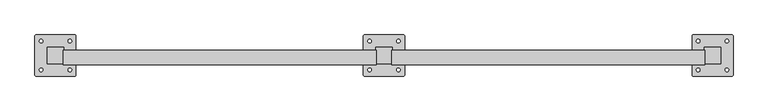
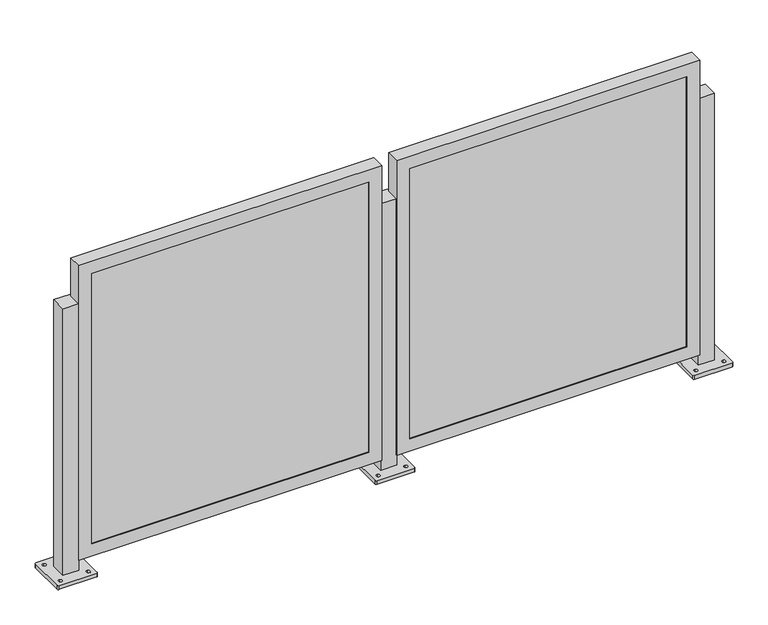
"""IFC4 building model written with IfcOpenShell, lengths in millimetres: railing geometry, Railing - Amico Architectural - Perforated Railing - Apex02."""

from ifc_helpers import new_model, si_unit, frame, origin, place, context, project, spatial, polyline, circle_curve, outline, extrude, faceted_brep, source, transform, mapped, element, save
from ifc_brep_helpers import plane_surface, cylinder_surface, revolved_surface, advanced_brep


def railing_8ff6461c(model_context):
    return source(origin(), model_context, "Body", "SolidModel", [
        advanced_brep(
        [(-26985.3286619, -908.4679764, 914.4), (-26985.3286619, -959.2679764, 914.4), (-26934.5286619, -959.2679764, 914.4), (-26934.5286619, -908.4679764, 914.4), (-27023.428662, -994.1929354, 0.0), (-27023.428662, -873.5430174, 0.0), (-27020.2536339, -870.3679893, 0.0), (-26899.6036899, -870.3679893, 0.0), (-26896.4286617, -873.5430174, 0.0), (-26896.4286617, -994.1929354, 0.0), (-26899.6036899, -997.3679635, 0.0), (-27020.2536339, -997.3679635, 0.0), (-27004.3786494, -983.874231, 0.0), (-27004.3786494, -972.7617186, 0.0), (-27004.3786603, -894.9742267, 0.0), (-27004.3786603, -883.8617451, 0.0), (-26915.4786485, -983.8742295, 0.0), (-26915.4786485, -972.7617189, 0.0), (-26915.4786594, -894.9742251, 0.0), (-26915.4786594, -883.8617453, 0.0), (-26985.3286619, -908.4679764, 12.7), (-26985.3286619, -959.2679764, 12.7), (-26934.5286619, -959.2679764, 12.7), (-26934.5286619, -908.4679764, 12.7), (-27023.428662, -994.1929354, 12.7), (-27020.2536339, -997.3679635, 12.7), (-26899.6036899, -997.3679635, 12.7), (-26896.4286617, -994.1929354, 12.7), (-26896.4286617, -873.5430174, 12.7), (-26899.6036899, -870.3679893, 12.7), (-27020.2536339, -870.3679893, 12.7), (-27023.428662, -873.5430174, 12.7), (-27004.3786494, -983.874231, 12.7), (-27004.3786494, -972.7617186, 12.7), (-27004.3786603, -894.9742267, 12.7), (-27004.3786603, -883.8617451, 12.7), (-26915.4786485, -983.8742295, 12.7), (-26915.4786485, -972.7617189, 12.7), (-26915.4786594, -894.9742251, 12.7), (-26915.4786594, -883.8617453, 12.7)],
        [
            (0, 1),
            (1, 2),
            (2, 3),
            (3, 0),
            (4, 5),
            (5, 6, circle_curve(frame((-27020.2536339, -873.5430174, 0.0), z_axis=(0.0, 0.0, -1.0), x_axis=(0.0, 1.0, 0.0)), 3.1750282)),
            (6, 7),
            (7, 8, circle_curve(frame((-26899.6036899, -873.5430174, 0.0), z_axis=(0.0, 0.0, -1.0), x_axis=(0.0, 1.0, 0.0)), 3.1750282)),
            (8, 9),
            (9, 10, circle_curve(frame((-26899.6036899, -994.1929354, 0.0), z_axis=(0.0, 0.0, -1.0), x_axis=(0.0, 1.0, 0.0)), 3.1750282)),
            (10, 11),
            (11, 4, circle_curve(frame((-27020.2536339, -994.1929354, 0.0), z_axis=(0.0, 0.0, -1.0), x_axis=(0.0, 1.0, 0.0)), 3.1750282)),
            (12, 13, circle_curve(frame((-27004.3786494, -978.3179748, 0.0), z_axis=(0.0, 0.0, 1.0), x_axis=(0.0, 1.0, 0.0)), 5.5562562)),
            (13, 12, circle_curve(frame((-27004.3786494, -978.3179748, 0.0), z_axis=(0.0, 0.0, 1.0), x_axis=(0.0, 1.0, 0.0)), 5.5562562)),
            (14, 15, circle_curve(frame((-27004.3786603, -889.4179859, 0.0), z_axis=(0.0, 0.0, 1.0), x_axis=(0.0, 1.0, 0.0)), 5.5562408)),
            (15, 14, circle_curve(frame((-27004.3786603, -889.4179859, 0.0), z_axis=(0.0, 0.0, 1.0), x_axis=(0.0, 1.0, 0.0)), 5.5562408)),
            (16, 17, circle_curve(frame((-26915.4786485, -978.3179742, 0.0), z_axis=(0.0, 0.0, 1.0), x_axis=(0.0, 1.0, 0.0)), 5.5562553)),
            (17, 16, circle_curve(frame((-26915.4786485, -978.3179742, 0.0), z_axis=(0.0, 0.0, 1.0), x_axis=(0.0, 1.0, 0.0)), 5.5562553)),
            (18, 19, circle_curve(frame((-26915.4786594, -889.4179852, 0.0), z_axis=(0.0, 0.0, 1.0), x_axis=(0.0, 1.0, 0.0)), 5.5562399)),
            (19, 18, circle_curve(frame((-26915.4786594, -889.4179852, 0.0), z_axis=(0.0, 0.0, 1.0), x_axis=(0.0, 1.0, 0.0)), 5.5562399)),
            (0, 20),
            (20, 21),
            (21, 1),
            (21, 22),
            (22, 2),
            (22, 23),
            (23, 3),
            (23, 20),
            (24, 25, circle_curve(frame((-27020.2536339, -994.1929354, 12.7), z_axis=(0.0, 0.0, 1.0), x_axis=(0.0, 1.0, 0.0)), 3.1750282)),
            (25, 26),
            (26, 27, circle_curve(frame((-26899.6036899, -994.1929354, 12.7), z_axis=(0.0, 0.0, 1.0), x_axis=(0.0, 1.0, 0.0)), 3.1750282)),
            (27, 28),
            (28, 29, circle_curve(frame((-26899.6036899, -873.5430174, 12.7), z_axis=(0.0, 0.0, 1.0), x_axis=(0.0, 1.0, 0.0)), 3.1750282)),
            (29, 30),
            (30, 31, circle_curve(frame((-27020.2536339, -873.5430174, 12.7), z_axis=(0.0, 0.0, 1.0), x_axis=(0.0, 1.0, 0.0)), 3.1750282)),
            (31, 24),
            (32, 33, circle_curve(frame((-27004.3786494, -978.3179748, 12.7), z_axis=(0.0, 0.0, -1.0), x_axis=(0.0, 1.0, 0.0)), 5.5562562)),
            (33, 32, circle_curve(frame((-27004.3786494, -978.3179748, 12.7), z_axis=(0.0, 0.0, -1.0), x_axis=(0.0, 1.0, 0.0)), 5.5562562)),
            (34, 35, circle_curve(frame((-27004.3786603, -889.4179859, 12.7), z_axis=(0.0, 0.0, -1.0), x_axis=(0.0, 1.0, 0.0)), 5.5562408)),
            (35, 34, circle_curve(frame((-27004.3786603, -889.4179859, 12.7), z_axis=(0.0, 0.0, -1.0), x_axis=(0.0, 1.0, 0.0)), 5.5562408)),
            (36, 37, circle_curve(frame((-26915.4786485, -978.3179742, 12.7), z_axis=(0.0, 0.0, -1.0), x_axis=(0.0, 1.0, 0.0)), 5.5562553)),
            (37, 36, circle_curve(frame((-26915.4786485, -978.3179742, 12.7), z_axis=(0.0, 0.0, -1.0), x_axis=(0.0, 1.0, 0.0)), 5.5562553)),
            (38, 39, circle_curve(frame((-26915.4786594, -889.4179852, 12.7), z_axis=(0.0, 0.0, -1.0), x_axis=(0.0, 1.0, 0.0)), 5.5562399)),
            (39, 38, circle_curve(frame((-26915.4786594, -889.4179852, 12.7), z_axis=(0.0, 0.0, -1.0), x_axis=(0.0, 1.0, 0.0)), 5.5562399)),
            (24, 4),
            (11, 25),
            (10, 26),
            (9, 27),
            (8, 28),
            (7, 29),
            (6, 30),
            (5, 31),
            (32, 12),
            (13, 33),
            (34, 14),
            (15, 35),
            (36, 16),
            (17, 37),
            (38, 18),
            (19, 39),
        ],
        [
            plane_surface(frame((-26985.3286619, -959.2679764, 914.4), z_axis=(0.0, 0.0, 1.0), x_axis=(0.0, -1.0, 0.0))),
            plane_surface(frame((-26985.3286619, -959.2679764, 0.0), z_axis=(0.0, 0.0, -1.0), x_axis=(0.0, 1.0, 0.0))),
            plane_surface(frame((-26985.3286619, -908.4679764, 914.4), z_axis=(-1.0, 0.0, 0.0), x_axis=(0.0, 0.0, -1.0))),
            plane_surface(frame((-26985.3286619, -959.2679764, 914.4), z_axis=(0.0, -1.0, 0.0), x_axis=(0.0, 0.0, -1.0))),
            plane_surface(frame((-26934.5286619, -959.2679764, 914.4), z_axis=(1.0, 0.0, 0.0), x_axis=(0.0, 0.0, -1.0))),
            plane_surface(frame((-26934.5286619, -908.4679764, 914.4), z_axis=(0.0, 1.0, 0.0), x_axis=(0.0, 0.0, -1.0))),
            plane_surface(frame((-27020.2536339, -991.0179072, 12.7), z_axis=(0.0, 0.0, 1.0), x_axis=(-1.0, 0.0, 0.0))),
            cylinder_surface(frame((-27020.2536339, -994.1929354, 0.0), z_axis=(0.0, 0.0, 1.0), x_axis=(0.0, 1.0, 0.0)), 3.1750282),
            plane_surface(frame((-27020.2536339, -997.3679635, 12.7), z_axis=(1.1945386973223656e-12, -1.0, 0.0), x_axis=(0.0, 0.0, -1.0))),
            cylinder_surface(frame((-26899.6036899, -994.1929354, 0.0), z_axis=(0.0, 0.0, 1.0), x_axis=(0.0, 1.0, 0.0)), 3.1750282),
            plane_surface(frame((-26896.4286617, -994.1929354, 12.7), z_axis=(1.0, 0.0, 0.0), x_axis=(0.0, 0.0, -1.0))),
            cylinder_surface(frame((-26899.6036899, -873.5430174, 0.0), z_axis=(0.0, 0.0, 1.0), x_axis=(0.0, 1.0, 0.0)), 3.1750282),
            plane_surface(frame((-26899.6036899, -870.3679893, 12.7), z_axis=(-1.1946088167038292e-12, 1.0, 0.0), x_axis=(0.0, 0.0, -1.0))),
            cylinder_surface(frame((-27020.2536339, -873.5430174, 0.0), z_axis=(0.0, 0.0, 1.0), x_axis=(0.0, 1.0, 0.0)), 3.1750282),
            plane_surface(frame((-27023.428662, -873.5430174, 12.7), z_axis=(-1.0, 0.0, 0.0), x_axis=(0.0, 0.0, -1.0))),
            revolved_surface(polyline([(-27004.3786494, -972.7617186, 0.0), (-27004.3786494, -972.7617186, 12.7)]), (-27004.3786494, -978.3179748, 0.0), (0.0, 0.0, -1.0)),
            revolved_surface(polyline([(-27004.3786603, -883.8617451, 0.0), (-27004.3786603, -883.8617451, 12.7)]), (-27004.3786603, -889.4179859, 0.0), (0.0, 0.0, -1.0)),
            revolved_surface(polyline([(-26915.4786485, -972.7617189, 0.0), (-26915.4786485, -972.7617189, 12.7)]), (-26915.4786485, -978.3179742, 0.0), (0.0, 0.0, -1.0)),
            revolved_surface(polyline([(-26915.4786594, -883.8617452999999, 0.0), (-26915.4786594, -883.8617452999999, 12.7)]), (-26915.4786594, -889.4179852, 0.0), (0.0, 0.0, -1.0)),
        ],
        [
            (0, [[1, 2, 3, 4]]),
            (1, [[5, 6, 7, 8, 9, 10, 11, 12], [13, 14], [15, 16], [17, 18], [19, 20]]),
            (2, [[-1, 21, 22, 23]]),
            (3, [[-2, -23, 24, 25]]),
            (4, [[-3, -25, 26, 27]]),
            (5, [[-4, -27, 28, -21]]),
            (6, [[29, 30, 31, 32, 33, 34, 35, 36], [-22, -28, -26, -24], [37, 38], [39, 40], [41, 42], [43, 44]]),
            (7, [[-29, 45, -12, 46]]),
            (8, [[-30, -46, -11, 47]]),
            (9, [[-31, -47, -10, 48]]),
            (10, [[-32, -48, -9, 49]]),
            (11, [[-33, -49, -8, 50]]),
            (12, [[-34, -50, -7, 51]]),
            (13, [[-35, -51, -6, 52]]),
            (14, [[-36, -52, -5, -45]]),
            (15, [[-37, 53, -14, 54]]),
            (15, [[-38, -54, -13, -53]]),
            (16, [[-39, 55, -16, 56]]),
            (16, [[-40, -56, -15, -55]]),
            (17, [[-41, 57, -18, 58]]),
            (17, [[-42, -58, -17, -57]]),
            (18, [[-43, 59, -20, 60]]),
            (18, [[-44, -60, -19, -59]]),
        ],
    ),
        faceted_brep([(-27951.7331153, -962.0111764, 47.625), (-26983.3581153, -962.0111764, 47.625), (-26983.3581153, -962.0111764, 1044.575), (-27951.7331153, -962.0111764, 1044.575), (-27910.4581153, -962.0111764, 1003.3), (-27024.6331153, -962.0111764, 1003.3), (-27024.6331153, -962.0111764, 88.9), (-27910.4581153, -962.0111764, 88.9), (-27910.4581153, -959.2679764, 1003.3), (-27910.4581153, -959.2679764, 88.9), (-27951.7331153, -918.1378799, 1044.575), (-27951.7331153, -918.1378799, 47.625), (-27948.5581153, -918.1378799, 1041.4), (-27948.5581153, -959.2679764, 1041.4), (-27948.5581153, -959.2679764, 50.8), (-27948.5581153, -918.1378799, 50.8), (-27024.6331153, -959.2679764, 88.9), (-26983.3581153, -918.1378799, 47.625), (-26986.5331153, -959.2679764, 50.8), (-26986.5331153, -918.1378799, 50.8), (-27024.6331153, -959.2679764, 1003.3), (-26983.3581153, -918.1378799, 1044.575), (-26986.5331153, -959.2679764, 1041.4), (-26986.5331153, -918.1378799, 1041.4)], [[[0, 1, 2, 3], [4, 5, 6, 7]], [[8, 4, 7, 9]], [[3, 10, 11, 0]], [[12, 13, 14, 15]], [[9, 7, 6, 16]], [[0, 11, 17, 1]], [[15, 14, 18, 19]], [[16, 6, 5, 20]], [[1, 17, 21, 2]], [[19, 18, 22, 23]], [[20, 5, 4, 8]], [[10, 21, 17, 11], [15, 19, 23, 12]], [[2, 21, 10, 3]], [[13, 22, 18, 14], [9, 16, 20, 8]], [[23, 22, 13, 12]]]),
        extrude(outline(polyline([(-27948.5581153, -949.7429764), (-26986.5331153, -949.7429764), (-26986.5331153, -959.2679764), (-27948.5581153, -959.2679764), (-27948.5581153, -949.7429764)])), frame((0.0, 0.0, 50.8), z_axis=(0.0, 0.0, 1.0), x_axis=(1.0, 0.0, 0.0)), (0.0, 0.0, 1.0), 990.6),
        advanced_brep(
        [(-28001.3286619, -908.4679764, 914.4), (-28001.3286619, -959.2679764, 914.4), (-27950.5286619, -959.2679764, 914.4), (-27950.5286619, -908.4679764, 914.4), (-28039.428662, -994.1929354, 0.0), (-28039.428662, -873.5430174, 0.0), (-28036.2536339, -870.3679893, 0.0), (-27915.6036899, -870.3679893, 0.0), (-27912.4286617, -873.5430174, 0.0), (-27912.4286617, -994.1929354, 0.0), (-27915.6036899, -997.3679635, 0.0), (-28036.2536339, -997.3679635, 0.0), (-28020.3786494, -983.874231, 0.0), (-28020.3786494, -972.7617186, 0.0), (-28020.3786603, -894.9742267, 0.0), (-28020.3786603, -883.8617451, 0.0), (-27931.4786485, -983.8742295, 0.0), (-27931.4786485, -972.7617189, 0.0), (-27931.4786594, -894.9742251, 0.0), (-27931.4786594, -883.8617453, 0.0), (-28001.3286619, -908.4679764, 12.7), (-28001.3286619, -959.2679764, 12.7), (-27950.5286619, -959.2679764, 12.7), (-27950.5286619, -908.4679764, 12.7), (-28039.428662, -994.1929354, 12.7), (-28036.2536339, -997.3679635, 12.7), (-27915.6036899, -997.3679635, 12.7), (-27912.4286617, -994.1929354, 12.7), (-27912.4286617, -873.5430174, 12.7), (-27915.6036899, -870.3679893, 12.7), (-28036.2536339, -870.3679893, 12.7), (-28039.428662, -873.5430174, 12.7), (-28020.3786494, -983.874231, 12.7), (-28020.3786494, -972.7617186, 12.7), (-28020.3786603, -894.9742267, 12.7), (-28020.3786603, -883.8617451, 12.7), (-27931.4786485, -983.8742295, 12.7), (-27931.4786485, -972.7617189, 12.7), (-27931.4786594, -894.9742251, 12.7), (-27931.4786594, -883.8617453, 12.7)],
        [
            (0, 1),
            (1, 2),
            (2, 3),
            (3, 0),
            (4, 5),
            (5, 6, circle_curve(frame((-28036.2536339, -873.5430174, 0.0), z_axis=(0.0, 0.0, -1.0), x_axis=(0.0, 1.0, 0.0)), 3.1750282)),
            (6, 7),
            (7, 8, circle_curve(frame((-27915.6036899, -873.5430174, 0.0), z_axis=(0.0, 0.0, -1.0), x_axis=(0.0, 1.0, 0.0)), 3.1750282)),
            (8, 9),
            (9, 10, circle_curve(frame((-27915.6036899, -994.1929354, 0.0), z_axis=(0.0, 0.0, -1.0), x_axis=(0.0, 1.0, 0.0)), 3.1750282)),
            (10, 11),
            (11, 4, circle_curve(frame((-28036.2536339, -994.1929354, 0.0), z_axis=(0.0, 0.0, -1.0), x_axis=(0.0, 1.0, 0.0)), 3.1750282)),
            (12, 13, circle_curve(frame((-28020.3786494, -978.3179748, 0.0), z_axis=(0.0, 0.0, 1.0), x_axis=(0.0, 1.0, 0.0)), 5.5562562)),
            (13, 12, circle_curve(frame((-28020.3786494, -978.3179748, 0.0), z_axis=(0.0, 0.0, 1.0), x_axis=(0.0, 1.0, 0.0)), 5.5562562)),
            (14, 15, circle_curve(frame((-28020.3786603, -889.4179859, 0.0), z_axis=(0.0, 0.0, 1.0), x_axis=(0.0, 1.0, 0.0)), 5.5562408)),
            (15, 14, circle_curve(frame((-28020.3786603, -889.4179859, 0.0), z_axis=(0.0, 0.0, 1.0), x_axis=(0.0, 1.0, 0.0)), 5.5562408)),
            (16, 17, circle_curve(frame((-27931.4786485, -978.3179742, 0.0), z_axis=(0.0, 0.0, 1.0), x_axis=(0.0, 1.0, 0.0)), 5.5562553)),
            (17, 16, circle_curve(frame((-27931.4786485, -978.3179742, 0.0), z_axis=(0.0, 0.0, 1.0), x_axis=(0.0, 1.0, 0.0)), 5.5562553)),
            (18, 19, circle_curve(frame((-27931.4786594, -889.4179852, 0.0), z_axis=(0.0, 0.0, 1.0), x_axis=(0.0, 1.0, 0.0)), 5.5562399)),
            (19, 18, circle_curve(frame((-27931.4786594, -889.4179852, 0.0), z_axis=(0.0, 0.0, 1.0), x_axis=(0.0, 1.0, 0.0)), 5.5562399)),
            (0, 20),
            (20, 21),
            (21, 1),
            (21, 22),
            (22, 2),
            (22, 23),
            (23, 3),
            (23, 20),
            (24, 25, circle_curve(frame((-28036.2536339, -994.1929354, 12.7), z_axis=(0.0, 0.0, 1.0), x_axis=(0.0, 1.0, 0.0)), 3.1750282)),
            (25, 26),
            (26, 27, circle_curve(frame((-27915.6036899, -994.1929354, 12.7), z_axis=(0.0, 0.0, 1.0), x_axis=(0.0, 1.0, 0.0)), 3.1750282)),
            (27, 28),
            (28, 29, circle_curve(frame((-27915.6036899, -873.5430174, 12.7), z_axis=(0.0, 0.0, 1.0), x_axis=(0.0, 1.0, 0.0)), 3.1750282)),
            (29, 30),
            (30, 31, circle_curve(frame((-28036.2536339, -873.5430174, 12.7), z_axis=(0.0, 0.0, 1.0), x_axis=(0.0, 1.0, 0.0)), 3.1750282)),
            (31, 24),
            (32, 33, circle_curve(frame((-28020.3786494, -978.3179748, 12.7), z_axis=(0.0, 0.0, -1.0), x_axis=(0.0, 1.0, 0.0)), 5.5562562)),
            (33, 32, circle_curve(frame((-28020.3786494, -978.3179748, 12.7), z_axis=(0.0, 0.0, -1.0), x_axis=(0.0, 1.0, 0.0)), 5.5562562)),
            (34, 35, circle_curve(frame((-28020.3786603, -889.4179859, 12.7), z_axis=(0.0, 0.0, -1.0), x_axis=(0.0, 1.0, 0.0)), 5.5562408)),
            (35, 34, circle_curve(frame((-28020.3786603, -889.4179859, 12.7), z_axis=(0.0, 0.0, -1.0), x_axis=(0.0, 1.0, 0.0)), 5.5562408)),
            (36, 37, circle_curve(frame((-27931.4786485, -978.3179742, 12.7), z_axis=(0.0, 0.0, -1.0), x_axis=(0.0, 1.0, 0.0)), 5.5562553)),
            (37, 36, circle_curve(frame((-27931.4786485, -978.3179742, 12.7), z_axis=(0.0, 0.0, -1.0), x_axis=(0.0, 1.0, 0.0)), 5.5562553)),
            (38, 39, circle_curve(frame((-27931.4786594, -889.4179852, 12.7), z_axis=(0.0, 0.0, -1.0), x_axis=(0.0, 1.0, 0.0)), 5.5562399)),
            (39, 38, circle_curve(frame((-27931.4786594, -889.4179852, 12.7), z_axis=(0.0, 0.0, -1.0), x_axis=(0.0, 1.0, 0.0)), 5.5562399)),
            (24, 4),
            (11, 25),
            (10, 26),
            (9, 27),
            (8, 28),
            (7, 29),
            (6, 30),
            (5, 31),
            (32, 12),
            (13, 33),
            (34, 14),
            (15, 35),
            (36, 16),
            (17, 37),
            (38, 18),
            (19, 39),
        ],
        [
            plane_surface(frame((-28001.3286619, -959.2679764, 914.4), z_axis=(0.0, 0.0, 1.0), x_axis=(0.0, -1.0, 0.0))),
            plane_surface(frame((-28001.3286619, -959.2679764, 0.0), z_axis=(0.0, 0.0, -1.0), x_axis=(0.0, 1.0, 0.0))),
            plane_surface(frame((-28001.3286619, -908.4679764, 914.4), z_axis=(-1.0, 0.0, 0.0), x_axis=(0.0, 0.0, -1.0))),
            plane_surface(frame((-28001.3286619, -959.2679764, 914.4), z_axis=(0.0, -1.0, 0.0), x_axis=(0.0, 0.0, -1.0))),
            plane_surface(frame((-27950.5286619, -959.2679764, 914.4), z_axis=(1.0, 0.0, 0.0), x_axis=(0.0, 0.0, -1.0))),
            plane_surface(frame((-27950.5286619, -908.4679764, 914.4), z_axis=(0.0, 1.0, 0.0), x_axis=(0.0, 0.0, -1.0))),
            plane_surface(frame((-28036.2536339, -991.0179072, 12.7), z_axis=(0.0, 0.0, 1.0), x_axis=(-1.0, 0.0, 0.0))),
            cylinder_surface(frame((-28036.2536339, -994.1929354, 0.0), z_axis=(0.0, 0.0, 1.0), x_axis=(0.0, 1.0, 0.0)), 3.1750282),
            plane_surface(frame((-28036.2536339, -997.3679635, 12.7), z_axis=(1.1945386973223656e-12, -1.0, 0.0), x_axis=(0.0, 0.0, -1.0))),
            cylinder_surface(frame((-27915.6036899, -994.1929354, 0.0), z_axis=(0.0, 0.0, 1.0), x_axis=(0.0, 1.0, 0.0)), 3.1750282),
            plane_surface(frame((-27912.4286617, -994.1929354, 12.7), z_axis=(1.0, 0.0, 0.0), x_axis=(0.0, 0.0, -1.0))),
            cylinder_surface(frame((-27915.6036899, -873.5430174, 0.0), z_axis=(0.0, 0.0, 1.0), x_axis=(0.0, 1.0, 0.0)), 3.1750282),
            plane_surface(frame((-27915.6036899, -870.3679893, 12.7), z_axis=(-1.1946088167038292e-12, 1.0, 0.0), x_axis=(0.0, 0.0, -1.0))),
            cylinder_surface(frame((-28036.2536339, -873.5430174, 0.0), z_axis=(0.0, 0.0, 1.0), x_axis=(0.0, 1.0, 0.0)), 3.1750282),
            plane_surface(frame((-28039.428662, -873.5430174, 12.7), z_axis=(-1.0, 0.0, 0.0), x_axis=(0.0, 0.0, -1.0))),
            revolved_surface(polyline([(-28020.3786494, -972.7617186, 0.0), (-28020.3786494, -972.7617186, 12.7)]), (-28020.3786494, -978.3179748, 0.0), (0.0, 0.0, -1.0)),
            revolved_surface(polyline([(-28020.3786603, -883.8617451, 0.0), (-28020.3786603, -883.8617451, 12.7)]), (-28020.3786603, -889.4179859, 0.0), (0.0, 0.0, -1.0)),
            revolved_surface(polyline([(-27931.4786485, -972.7617189, 0.0), (-27931.4786485, -972.7617189, 12.7)]), (-27931.4786485, -978.3179742, 0.0), (0.0, 0.0, -1.0)),
            revolved_surface(polyline([(-27931.4786594, -883.8617452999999, 0.0), (-27931.4786594, -883.8617452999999, 12.7)]), (-27931.4786594, -889.4179852, 0.0), (0.0, 0.0, -1.0)),
        ],
        [
            (0, [[1, 2, 3, 4]]),
            (1, [[5, 6, 7, 8, 9, 10, 11, 12], [13, 14], [15, 16], [17, 18], [19, 20]]),
            (2, [[-1, 21, 22, 23]]),
            (3, [[-2, -23, 24, 25]]),
            (4, [[-3, -25, 26, 27]]),
            (5, [[-4, -27, 28, -21]]),
            (6, [[29, 30, 31, 32, 33, 34, 35, 36], [-22, -28, -26, -24], [37, 38], [39, 40], [41, 42], [43, 44]]),
            (7, [[-29, 45, -12, 46]]),
            (8, [[-30, -46, -11, 47]]),
            (9, [[-31, -47, -10, 48]]),
            (10, [[-32, -48, -9, 49]]),
            (11, [[-33, -49, -8, 50]]),
            (12, [[-34, -50, -7, 51]]),
            (13, [[-35, -51, -6, 52]]),
            (14, [[-36, -52, -5, -45]]),
            (15, [[-37, 53, -14, 54]]),
            (15, [[-38, -54, -13, -53]]),
            (16, [[-39, 55, -16, 56]]),
            (16, [[-40, -56, -15, -55]]),
            (17, [[-41, 57, -18, 58]]),
            (17, [[-42, -58, -17, -57]]),
            (18, [[-43, 59, -20, 60]]),
            (18, [[-44, -60, -19, -59]]),
        ],
    ),
        faceted_brep([(-28967.7331153, -962.0111764, 47.625), (-27999.3581153, -962.0111764, 47.625), (-27999.3581153, -962.0111764, 1044.575), (-28967.7331153, -962.0111764, 1044.575), (-28926.4581153, -962.0111764, 1003.3), (-28040.6331153, -962.0111764, 1003.3), (-28040.6331153, -962.0111764, 88.9), (-28926.4581153, -962.0111764, 88.9), (-28926.4581153, -959.2679764, 1003.3), (-28926.4581153, -959.2679764, 88.9), (-28967.7331153, -918.1378799, 1044.575), (-28967.7331153, -918.1378799, 47.625), (-28964.5581153, -918.1378799, 1041.4), (-28964.5581153, -959.2679764, 1041.4), (-28964.5581153, -959.2679764, 50.8), (-28964.5581153, -918.1378799, 50.8), (-28040.6331153, -959.2679764, 88.9), (-27999.3581153, -918.1378799, 47.625), (-28002.5331153, -959.2679764, 50.8), (-28002.5331153, -918.1378799, 50.8), (-28040.6331153, -959.2679764, 1003.3), (-27999.3581153, -918.1378799, 1044.575), (-28002.5331153, -959.2679764, 1041.4), (-28002.5331153, -918.1378799, 1041.4)], [[[0, 1, 2, 3], [4, 5, 6, 7]], [[8, 4, 7, 9]], [[3, 10, 11, 0]], [[12, 13, 14, 15]], [[9, 7, 6, 16]], [[0, 11, 17, 1]], [[15, 14, 18, 19]], [[16, 6, 5, 20]], [[1, 17, 21, 2]], [[19, 18, 22, 23]], [[20, 5, 4, 8]], [[10, 21, 17, 11], [15, 19, 23, 12]], [[2, 21, 10, 3]], [[13, 22, 18, 14], [9, 16, 20, 8]], [[23, 22, 13, 12]]]),
        extrude(outline(polyline([(-28964.5581153, -949.7429764), (-28002.5331153, -949.7429764), (-28002.5331153, -959.2679764), (-28964.5581153, -959.2679764), (-28964.5581153, -949.7429764)])), frame((0.0, 0.0, 50.8), z_axis=(0.0, 0.0, 1.0), x_axis=(1.0, 0.0, 0.0)), (0.0, 0.0, 1.0), 990.6),
        advanced_brep(
        [(-29017.3286619, -908.4679764, 914.4), (-29017.3286619, -959.2679764, 914.4), (-28966.5286619, -959.2679764, 914.4), (-28966.5286619, -908.4679764, 914.4), (-29055.428662, -994.1929354, 0.0), (-29055.428662, -873.5430174, 0.0), (-29052.2536339, -870.3679893, 0.0), (-28931.6036899, -870.3679893, 0.0), (-28928.4286617, -873.5430174, 0.0), (-28928.4286617, -994.1929354, 0.0), (-28931.6036899, -997.3679635, 0.0), (-29052.2536339, -997.3679635, 0.0), (-29036.3786494, -983.874231, 0.0), (-29036.3786494, -972.7617186, 0.0), (-29036.3786603, -894.9742267, 0.0), (-29036.3786603, -883.8617451, 0.0), (-28947.4786485, -983.8742295, 0.0), (-28947.4786485, -972.7617189, 0.0), (-28947.4786594, -894.9742251, 0.0), (-28947.4786594, -883.8617453, 0.0), (-29017.3286619, -908.4679764, 12.7), (-29017.3286619, -959.2679764, 12.7), (-28966.5286619, -959.2679764, 12.7), (-28966.5286619, -908.4679764, 12.7), (-29055.428662, -994.1929354, 12.7), (-29052.2536339, -997.3679635, 12.7), (-28931.6036899, -997.3679635, 12.7), (-28928.4286617, -994.1929354, 12.7), (-28928.4286617, -873.5430174, 12.7), (-28931.6036899, -870.3679893, 12.7), (-29052.2536339, -870.3679893, 12.7), (-29055.428662, -873.5430174, 12.7), (-29036.3786494, -983.874231, 12.7), (-29036.3786494, -972.7617186, 12.7), (-29036.3786603, -894.9742267, 12.7), (-29036.3786603, -883.8617451, 12.7), (-28947.4786485, -983.8742295, 12.7), (-28947.4786485, -972.7617189, 12.7), (-28947.4786594, -894.9742251, 12.7), (-28947.4786594, -883.8617453, 12.7)],
        [
            (0, 1),
            (1, 2),
            (2, 3),
            (3, 0),
            (4, 5),
            (5, 6, circle_curve(frame((-29052.2536339, -873.5430174, 0.0), z_axis=(0.0, 0.0, -1.0), x_axis=(0.0, 1.0, 0.0)), 3.1750282)),
            (6, 7),
            (7, 8, circle_curve(frame((-28931.6036899, -873.5430174, 0.0), z_axis=(0.0, 0.0, -1.0), x_axis=(0.0, 1.0, 0.0)), 3.1750282)),
            (8, 9),
            (9, 10, circle_curve(frame((-28931.6036899, -994.1929354, 0.0), z_axis=(0.0, 0.0, -1.0), x_axis=(0.0, 1.0, 0.0)), 3.1750282)),
            (10, 11),
            (11, 4, circle_curve(frame((-29052.2536339, -994.1929354, 0.0), z_axis=(0.0, 0.0, -1.0), x_axis=(0.0, 1.0, 0.0)), 3.1750282)),
            (12, 13, circle_curve(frame((-29036.3786494, -978.3179748, 0.0), z_axis=(0.0, 0.0, 1.0), x_axis=(0.0, 1.0, 0.0)), 5.5562562)),
            (13, 12, circle_curve(frame((-29036.3786494, -978.3179748, 0.0), z_axis=(0.0, 0.0, 1.0), x_axis=(0.0, 1.0, 0.0)), 5.5562562)),
            (14, 15, circle_curve(frame((-29036.3786603, -889.4179859, 0.0), z_axis=(0.0, 0.0, 1.0), x_axis=(0.0, 1.0, 0.0)), 5.5562408)),
            (15, 14, circle_curve(frame((-29036.3786603, -889.4179859, 0.0), z_axis=(0.0, 0.0, 1.0), x_axis=(0.0, 1.0, 0.0)), 5.5562408)),
            (16, 17, circle_curve(frame((-28947.4786485, -978.3179742, 0.0), z_axis=(0.0, 0.0, 1.0), x_axis=(0.0, 1.0, 0.0)), 5.5562553)),
            (17, 16, circle_curve(frame((-28947.4786485, -978.3179742, 0.0), z_axis=(0.0, 0.0, 1.0), x_axis=(0.0, 1.0, 0.0)), 5.5562553)),
            (18, 19, circle_curve(frame((-28947.4786594, -889.4179852, 0.0), z_axis=(0.0, 0.0, 1.0), x_axis=(0.0, 1.0, 0.0)), 5.5562399)),
            (19, 18, circle_curve(frame((-28947.4786594, -889.4179852, 0.0), z_axis=(0.0, 0.0, 1.0), x_axis=(0.0, 1.0, 0.0)), 5.5562399)),
            (0, 20),
            (20, 21),
            (21, 1),
            (21, 22),
            (22, 2),
            (22, 23),
            (23, 3),
            (23, 20),
            (24, 25, circle_curve(frame((-29052.2536339, -994.1929354, 12.7), z_axis=(0.0, 0.0, 1.0), x_axis=(0.0, 1.0, 0.0)), 3.1750282)),
            (25, 26),
            (26, 27, circle_curve(frame((-28931.6036899, -994.1929354, 12.7), z_axis=(0.0, 0.0, 1.0), x_axis=(0.0, 1.0, 0.0)), 3.1750282)),
            (27, 28),
            (28, 29, circle_curve(frame((-28931.6036899, -873.5430174, 12.7), z_axis=(0.0, 0.0, 1.0), x_axis=(0.0, 1.0, 0.0)), 3.1750282)),
            (29, 30),
            (30, 31, circle_curve(frame((-29052.2536339, -873.5430174, 12.7), z_axis=(0.0, 0.0, 1.0), x_axis=(0.0, 1.0, 0.0)), 3.1750282)),
            (31, 24),
            (32, 33, circle_curve(frame((-29036.3786494, -978.3179748, 12.7), z_axis=(0.0, 0.0, -1.0), x_axis=(0.0, 1.0, 0.0)), 5.5562562)),
            (33, 32, circle_curve(frame((-29036.3786494, -978.3179748, 12.7), z_axis=(0.0, 0.0, -1.0), x_axis=(0.0, 1.0, 0.0)), 5.5562562)),
            (34, 35, circle_curve(frame((-29036.3786603, -889.4179859, 12.7), z_axis=(0.0, 0.0, -1.0), x_axis=(0.0, 1.0, 0.0)), 5.5562408)),
            (35, 34, circle_curve(frame((-29036.3786603, -889.4179859, 12.7), z_axis=(0.0, 0.0, -1.0), x_axis=(0.0, 1.0, 0.0)), 5.5562408)),
            (36, 37, circle_curve(frame((-28947.4786485, -978.3179742, 12.7), z_axis=(0.0, 0.0, -1.0), x_axis=(0.0, 1.0, 0.0)), 5.5562553)),
            (37, 36, circle_curve(frame((-28947.4786485, -978.3179742, 12.7), z_axis=(0.0, 0.0, -1.0), x_axis=(0.0, 1.0, 0.0)), 5.5562553)),
            (38, 39, circle_curve(frame((-28947.4786594, -889.4179852, 12.7), z_axis=(0.0, 0.0, -1.0), x_axis=(0.0, 1.0, 0.0)), 5.5562399)),
            (39, 38, circle_curve(frame((-28947.4786594, -889.4179852, 12.7), z_axis=(0.0, 0.0, -1.0), x_axis=(0.0, 1.0, 0.0)), 5.5562399)),
            (24, 4),
            (11, 25),
            (10, 26),
            (9, 27),
            (8, 28),
            (7, 29),
            (6, 30),
            (5, 31),
            (32, 12),
            (13, 33),
            (34, 14),
            (15, 35),
            (36, 16),
            (17, 37),
            (38, 18),
            (19, 39),
        ],
        [
            plane_surface(frame((-29017.3286619, -959.2679764, 914.4), z_axis=(0.0, 0.0, 1.0), x_axis=(0.0, -1.0, 0.0))),
            plane_surface(frame((-29017.3286619, -959.2679764, 0.0), z_axis=(0.0, 0.0, -1.0), x_axis=(0.0, 1.0, 0.0))),
            plane_surface(frame((-29017.3286619, -908.4679764, 914.4), z_axis=(-1.0, 0.0, 0.0), x_axis=(0.0, 0.0, -1.0))),
            plane_surface(frame((-29017.3286619, -959.2679764, 914.4), z_axis=(0.0, -1.0, 0.0), x_axis=(0.0, 0.0, -1.0))),
            plane_surface(frame((-28966.5286619, -959.2679764, 914.4), z_axis=(1.0, 0.0, 0.0), x_axis=(0.0, 0.0, -1.0))),
            plane_surface(frame((-28966.5286619, -908.4679764, 914.4), z_axis=(0.0, 1.0, 0.0), x_axis=(0.0, 0.0, -1.0))),
            plane_surface(frame((-29052.2536339, -991.0179072, 12.7), z_axis=(0.0, 0.0, 1.0), x_axis=(-1.0, 0.0, 0.0))),
            cylinder_surface(frame((-29052.2536339, -994.1929354, 0.0), z_axis=(0.0, 0.0, 1.0), x_axis=(0.0, 1.0, 0.0)), 3.1750282),
            plane_surface(frame((-29052.2536339, -997.3679635, 12.7), z_axis=(1.1945386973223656e-12, -1.0, 0.0), x_axis=(0.0, 0.0, -1.0))),
            cylinder_surface(frame((-28931.6036899, -994.1929354, 0.0), z_axis=(0.0, 0.0, 1.0), x_axis=(0.0, 1.0, 0.0)), 3.1750282),
            plane_surface(frame((-28928.4286617, -994.1929354, 12.7), z_axis=(1.0, 0.0, 0.0), x_axis=(0.0, 0.0, -1.0))),
            cylinder_surface(frame((-28931.6036899, -873.5430174, 0.0), z_axis=(0.0, 0.0, 1.0), x_axis=(0.0, 1.0, 0.0)), 3.1750282),
            plane_surface(frame((-28931.6036899, -870.3679893, 12.7), z_axis=(-1.1946088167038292e-12, 1.0, 0.0), x_axis=(0.0, 0.0, -1.0))),
            cylinder_surface(frame((-29052.2536339, -873.5430174, 0.0), z_axis=(0.0, 0.0, 1.0), x_axis=(0.0, 1.0, 0.0)), 3.1750282),
            plane_surface(frame((-29055.428662, -873.5430174, 12.7), z_axis=(-1.0, 0.0, 0.0), x_axis=(0.0, 0.0, -1.0))),
            revolved_surface(polyline([(-29036.3786494, -972.7617186, 0.0), (-29036.3786494, -972.7617186, 12.7)]), (-29036.3786494, -978.3179748, 0.0), (0.0, 0.0, -1.0)),
            revolved_surface(polyline([(-29036.3786603, -883.8617451, 0.0), (-29036.3786603, -883.8617451, 12.7)]), (-29036.3786603, -889.4179859, 0.0), (0.0, 0.0, -1.0)),
            revolved_surface(polyline([(-28947.4786485, -972.7617189, 0.0), (-28947.4786485, -972.7617189, 12.7)]), (-28947.4786485, -978.3179742, 0.0), (0.0, 0.0, -1.0)),
            revolved_surface(polyline([(-28947.4786594, -883.8617452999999, 0.0), (-28947.4786594, -883.8617452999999, 12.7)]), (-28947.4786594, -889.4179852, 0.0), (0.0, 0.0, -1.0)),
        ],
        [
            (0, [[1, 2, 3, 4]]),
            (1, [[5, 6, 7, 8, 9, 10, 11, 12], [13, 14], [15, 16], [17, 18], [19, 20]]),
            (2, [[-1, 21, 22, 23]]),
            (3, [[-2, -23, 24, 25]]),
            (4, [[-3, -25, 26, 27]]),
            (5, [[-4, -27, 28, -21]]),
            (6, [[29, 30, 31, 32, 33, 34, 35, 36], [-22, -28, -26, -24], [37, 38], [39, 40], [41, 42], [43, 44]]),
            (7, [[-29, 45, -12, 46]]),
            (8, [[-30, -46, -11, 47]]),
            (9, [[-31, -47, -10, 48]]),
            (10, [[-32, -48, -9, 49]]),
            (11, [[-33, -49, -8, 50]]),
            (12, [[-34, -50, -7, 51]]),
            (13, [[-35, -51, -6, 52]]),
            (14, [[-36, -52, -5, -45]]),
            (15, [[-37, 53, -14, 54]]),
            (15, [[-38, -54, -13, -53]]),
            (16, [[-39, 55, -16, 56]]),
            (16, [[-40, -56, -15, -55]]),
            (17, [[-41, 57, -18, 58]]),
            (17, [[-42, -58, -17, -57]]),
            (18, [[-43, 59, -20, 60]]),
            (18, [[-44, -60, -19, -59]]),
        ],
    ),
    ])


if __name__ == "__main__":
    model = new_model("IFC4")
    model_context = context("Model", 3, world=origin())
    ifc_project = project(units=[si_unit("LENGTHUNIT", "METRE", prefix="MILLI")], contexts=[model_context])
    site = spatial("IfcSite", under=ifc_project)
    building = spatial("IfcBuilding", under=site)
    placement = place(None, origin())
    railing_shape = railing_8ff6461c(model_context)
    element("IfcRailing", 1, ObjectType="Railing - Amico Architectural - Perforated Railing - Apex02", at=placement, inside=building, context=model_context, shape_type="MappedRepresentation", body=[
        mapped(railing_shape, transform((0.0, 0.0, 0.0), x_axis=(1.0, 0.0, 0.0), y_axis=(0.0, 1.0, 0.0), z_axis=(0.0, 0.0, 1.0))),
    ])
    save(model, "model.ifc")
